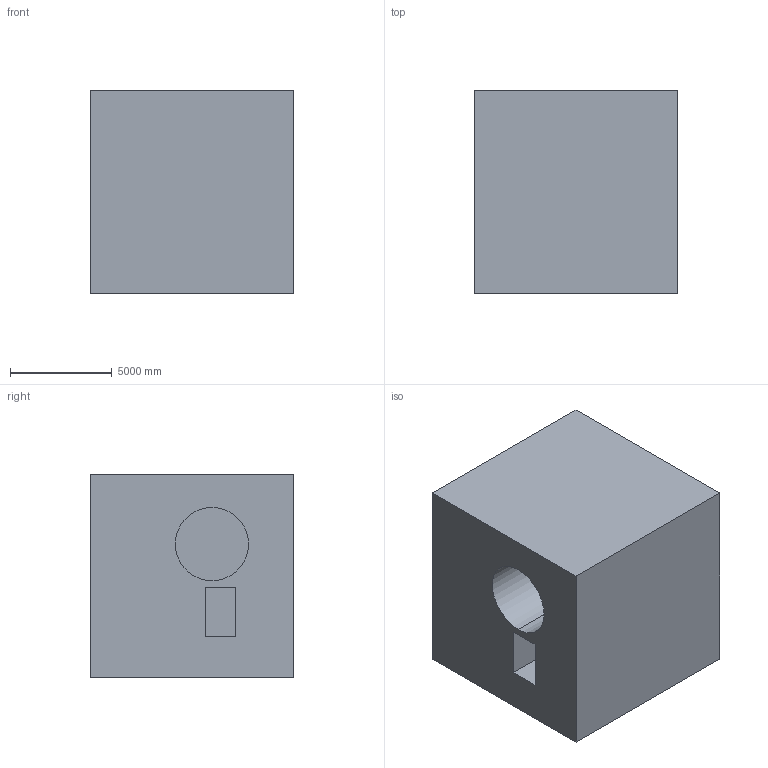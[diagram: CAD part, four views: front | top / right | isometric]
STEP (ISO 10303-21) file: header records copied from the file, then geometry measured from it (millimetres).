
FILE_DESCRIPTION (( 'STEP AP203' ), '1' );
FILE_NAME ('1238.STEP', '2022-08-18T13:20:08', ( 'user' ), ( '' ), 'SwSTEP 2.0', 'SolidWorks 2021', '' );
FILE_SCHEMA (( 'CONFIG_CONTROL_DESIGN' ));
Length unit declared in the file: centimetre
Products named in the file (1): 1238
Bounding box: 10000 x 10000 x 10000 mm (x, y, z)
Volume: 846206563780.3 mm3; surface area: 788090725.5 mm2
Topology: 1 solids, 1 shells, 22 faces, 57 edges, 38 vertices
Faces by surface type: plane 20, cylinder 2
Entity records: 746 total; most frequent: CARTESIAN_POINT 118, ORIENTED_EDGE 114, DIRECTION 107, EDGE_CURVE 57, LINE 53, VECTOR 53, VERTEX_POINT 38, AXIS2_PLACEMENT_3D 27
